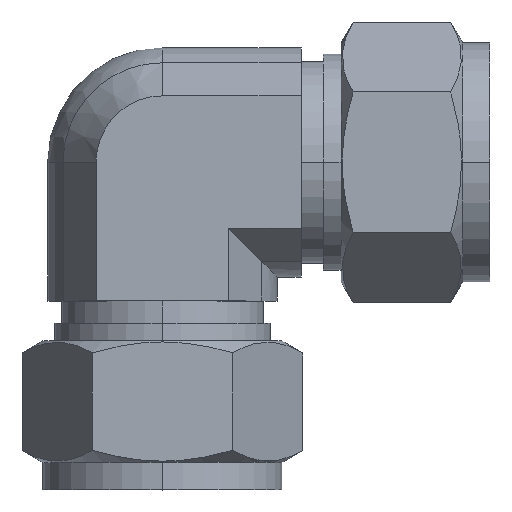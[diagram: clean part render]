
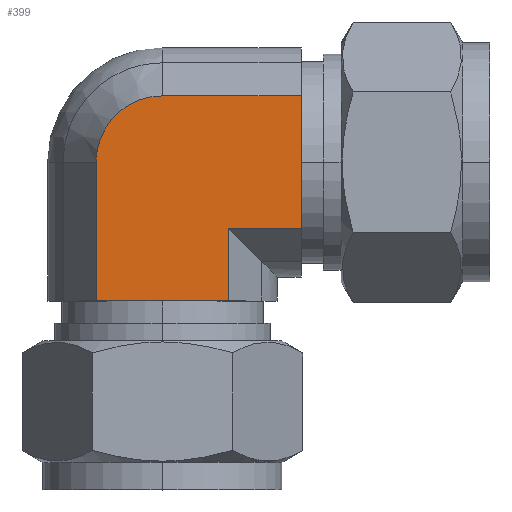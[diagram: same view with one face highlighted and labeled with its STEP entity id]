
A CAD part, top view. The second image highlights one B-rep face of the part: STEP entity #399.
In plain terms, the highlighted planar face has unit normal (0, 0, 1).
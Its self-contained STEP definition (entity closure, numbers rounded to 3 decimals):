
#8 = VERTEX_POINT ( 'NONE', #751 ) ;
#151 = EDGE_CURVE ( 'NONE', #152, #8, #850, .T. ) ;
#152 = VERTEX_POINT ( 'NONE', #846 ) ;
#280 = ORIENTED_EDGE ( 'NONE', *, *, #281, .T. ) ;
#281 = EDGE_CURVE ( 'NONE', #407, #408, #1420, .T. ) ;
#282 = ORIENTED_EDGE ( 'NONE', *, *, #283, .F. ) ;
#283 = EDGE_CURVE ( 'NONE', #284, #408, #1416, .T. ) ;
#284 = VERTEX_POINT ( 'NONE', #1411 ) ;
#285 = ORIENTED_EDGE ( 'NONE', *, *, #286, .F. ) ;
#286 = EDGE_CURVE ( 'NONE', #420, #284, #1410, .T. ) ;
#287 = ORIENTED_EDGE ( 'NONE', *, *, #419, .F. ) ;
#399 = ADVANCED_FACE ( 'NONE', ( #1508 ), #1507, .F. ) ;
#400 = EDGE_LOOP ( 'NONE', ( #401, #402, #405, #280, #282, #285, #287 ) ) ;
#401 = ORIENTED_EDGE ( 'NONE', *, *, #151, .T. ) ;
#402 = ORIENTED_EDGE ( 'NONE', *, *, #403, .F. ) ;
#403 = EDGE_CURVE ( 'NONE', #404, #8, #1502, .T. ) ;
#404 = VERTEX_POINT ( 'NONE', #1498 ) ;
#405 = ORIENTED_EDGE ( 'NONE', *, *, #406, .F. ) ;
#406 = EDGE_CURVE ( 'NONE', #407, #404, #1542, .T. ) ;
#407 = VERTEX_POINT ( 'NONE', #1538 ) ;
#408 = VERTEX_POINT ( 'NONE', #1537 ) ;
#419 = EDGE_CURVE ( 'NONE', #152, #420, #1526, .T. ) ;
#420 = VERTEX_POINT ( 'NONE', #1568 ) ;
#751 = CARTESIAN_POINT ( 'NONE',  ( 7.794, -7.794, 13.5 ) ) ;
#846 = CARTESIAN_POINT ( 'NONE',  ( 7.794, -16.32, 13.5 ) ) ;
#847 = DIRECTION ( 'NONE',  ( 0., 1., 0. ) ) ;
#848 = VECTOR ( 'NONE', #847, 1000. ) ;
#849 = CARTESIAN_POINT ( 'NONE',  ( 7.794, -16.32, 13.5 ) ) ;
#850 = LINE ( 'NONE', #849, #848 ) ;
#1407 = DIRECTION ( 'NONE',  ( 0., 1., 0. ) ) ;
#1408 = VECTOR ( 'NONE', #1407, 1000. ) ;
#1409 = CARTESIAN_POINT ( 'NONE',  ( -7.794, -16.32, 13.5 ) ) ;
#1410 = LINE ( 'NONE', #1409, #1408 ) ;
#1411 = CARTESIAN_POINT ( 'NONE',  ( -7.794, 0., 13.5 ) ) ;
#1412 = DIRECTION ( 'NONE',  ( 0., 1., 0. ) ) ;
#1413 = DIRECTION ( 'NONE',  ( 0., 0., -1. ) ) ;
#1414 = CARTESIAN_POINT ( 'NONE',  ( 0., 0., 13.5 ) ) ;
#1415 = AXIS2_PLACEMENT_3D ( 'NONE', #1414, #1413, #1412 ) ;
#1416 = CIRCLE ( 'NONE', #1415, 7.794 ) ;
#1417 = DIRECTION ( 'NONE',  ( -1., 0., 0. ) ) ;
#1418 = VECTOR ( 'NONE', #1417, 1000. ) ;
#1419 = CARTESIAN_POINT ( 'NONE',  ( 16.32, 7.794, 13.5 ) ) ;
#1420 = LINE ( 'NONE', #1419, #1418 ) ;
#1498 = CARTESIAN_POINT ( 'NONE',  ( 16.32, -7.794, 13.5 ) ) ;
#1499 = DIRECTION ( 'NONE',  ( -1., 0., 0. ) ) ;
#1500 = VECTOR ( 'NONE', #1499, 1000. ) ;
#1501 = CARTESIAN_POINT ( 'NONE',  ( 16.32, -7.794, 13.5 ) ) ;
#1502 = LINE ( 'NONE', #1501, #1500 ) ;
#1503 = DIRECTION ( 'NONE',  ( 0., 1., 0. ) ) ;
#1504 = DIRECTION ( 'NONE',  ( 0., 0., -1. ) ) ;
#1505 = AXIS2_PLACEMENT_3D ( 'NONE', #1506, #1504, #1503 ) ;
#1506 = CARTESIAN_POINT ( 'NONE',  ( 7.794, -16.32, 13.5 ) ) ;
#1507 = PLANE ( 'NONE',  #1505 ) ;
#1508 = FACE_OUTER_BOUND ( 'NONE', #400, .T. ) ;
#1523 = DIRECTION ( 'NONE',  ( -1., 0., 0. ) ) ;
#1524 = VECTOR ( 'NONE', #1523, 1000. ) ;
#1525 = CARTESIAN_POINT ( 'NONE',  ( 7.794, -16.32, 13.5 ) ) ;
#1526 = LINE ( 'NONE', #1525, #1524 ) ;
#1537 = CARTESIAN_POINT ( 'NONE',  ( 0., 7.794, 13.5 ) ) ;
#1538 = CARTESIAN_POINT ( 'NONE',  ( 16.32, 7.794, 13.5 ) ) ;
#1539 = DIRECTION ( 'NONE',  ( 0., -1., 0. ) ) ;
#1540 = VECTOR ( 'NONE', #1539, 1000. ) ;
#1541 = CARTESIAN_POINT ( 'NONE',  ( 16.32, 7.794, 13.5 ) ) ;
#1542 = LINE ( 'NONE', #1541, #1540 ) ;
#1568 = CARTESIAN_POINT ( 'NONE',  ( -7.794, -16.32, 13.5 ) ) ;
